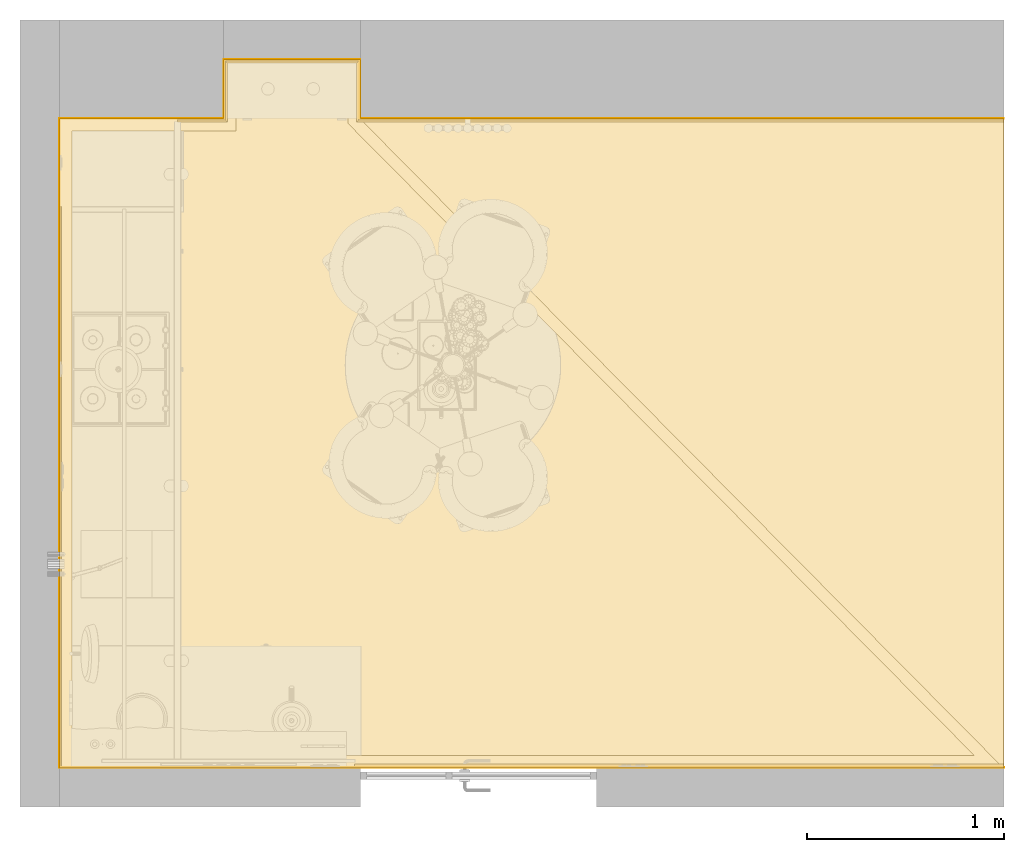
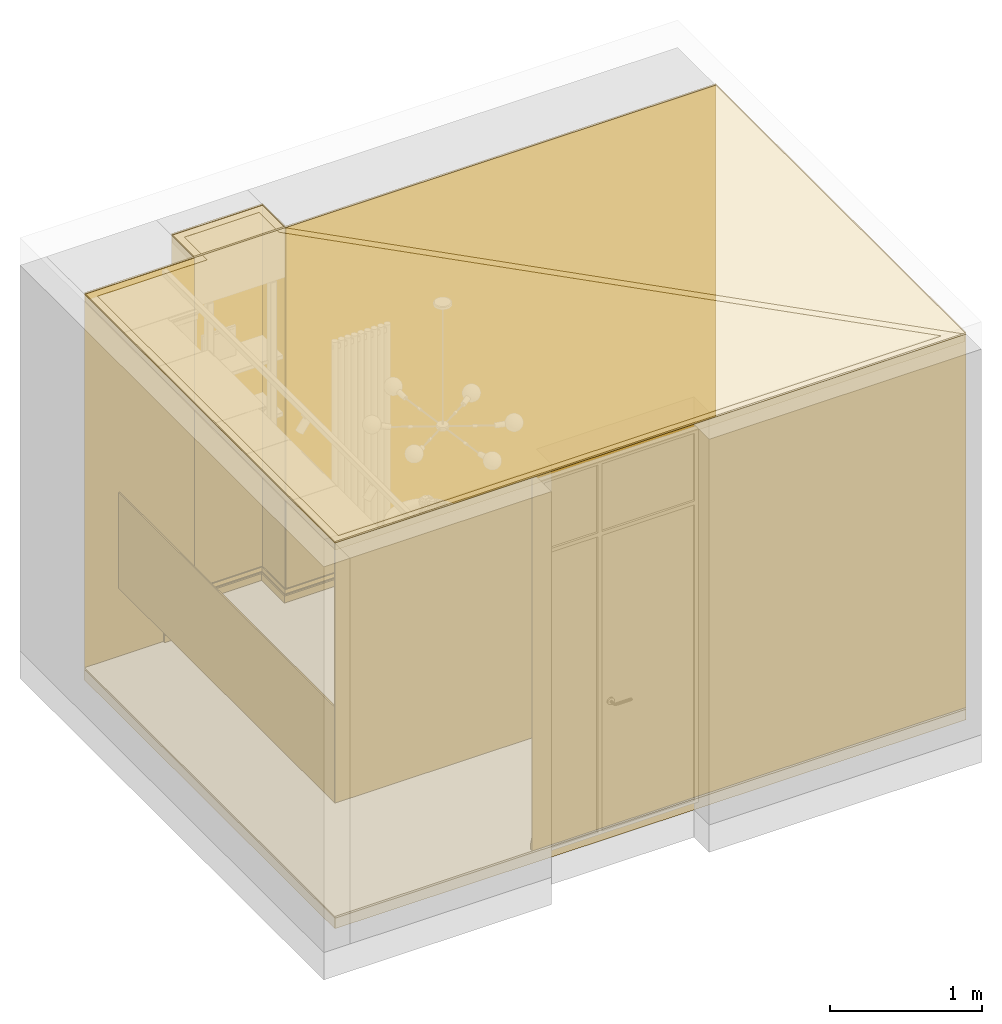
# One storey, part 2 of 11: 14 coverings.
"""IFC4 building model written with IfcOpenShell, lengths in millimetres."""

from ifc_helpers import new_model, si_unit, frame, origin_with_axes, place, context, subcontext, project, spatial, triangles, material, element, save


model = new_model("IFC4")

# Units and contexts
model_context = context("Model", 3, precision=0.01, world=origin_with_axes())
body_context = subcontext(model_context, "Body", "Model", "MODEL_VIEW")
ifc_project = project(units=[si_unit("LENGTHUNIT", "METRE", prefix="MILLI"), si_unit("AREAUNIT", "SQUARE_METRE"), si_unit("VOLUMEUNIT", "CUBIC_METRE"), si_unit("PLANEANGLEUNIT", "RADIAN")], contexts=[model_context])

# Site, building, storey
site_placement = place(None, origin_with_axes())
site = spatial("IfcSite", under=ifc_project, at=site_placement, Name="Участок", CompositionType="ELEMENT")
building_placement = place(site_placement, origin_with_axes())
building = spatial("IfcBuilding", under=site, at=building_placement, Name="Жилой дом", CompositionType="ELEMENT")
storey_placement = place(building_placement, origin_with_axes())
storey = spatial("IfcBuildingStorey", under=building, at=storey_placement, Name="Квартира ±0,000", CompositionType="ELEMENT", Elevation=0.0)

# Coverings
ifc_material_1 = material(Name="Сухая стяжка / основание пола")
covering_1_placement = place(storey_placement, frame((0.0, 0.0, -100.0)))
element("IfcCovering", 1, at=covering_1_placement, inside=storey, material=ifc_material_1, Name="Основание пола пом. 01", ObjectType="Стяжка / основание пола", PredefinedType="USERDEFINED", context=body_context, shape_type="Tessellation", body=[
    triangles([(4800.0, 0.0, 0.0), (4800.0, 3300.0, 0.0), (4800.0, 3300.0, 85.0), (4800.0, 0.0, 85.0), (4800.0, 3300.0, 0.0), (1530.0, 3300.0, 0.0), (1530.0, 3300.0, 85.0), (4800.0, 3300.0, 85.0), (1530.0, 3300.0, 0.0), (1530.0, 3600.0, 0.0), (1530.0, 3600.0, 85.0), (1530.0, 3300.0, 85.0), (1530.0, 3600.0, 0.0), (835.0, 3600.0, 0.0), (835.0, 3600.0, 85.0), (1530.0, 3600.0, 85.0), (835.0, 3600.0, 0.0), (835.0, 3300.0, 0.0), (835.0, 3300.0, 85.0), (835.0, 3600.0, 85.0), (835.0, 3300.0, 0.0), (0.0, 3300.0, 0.0), (0.0, 3300.0, 85.0), (835.0, 3300.0, 85.0), (0.0, 3300.0, 0.0), (0.0, 0.0, 0.0), (0.0, 0.0, 85.0), (0.0, 3300.0, 85.0), (0.0, 0.0, 0.0), (4800.0, 0.0, 0.0), (4800.0, 0.0, 85.0), (0.0, 0.0, 85.0), (0.0, 0.0, 85.0), (4800.0, 0.0, 85.0), (4800.0, 3300.0, 85.0), (0.0, 0.0, 85.0), (4800.0, 3300.0, 85.0), (1530.0, 3300.0, 85.0), (0.0, 0.0, 85.0), (1530.0, 3300.0, 85.0), (1530.0, 3600.0, 85.0), (1530.0, 3600.0, 85.0), (835.0, 3600.0, 85.0), (835.0, 3300.0, 85.0), (0.0, 0.0, 85.0), (1530.0, 3600.0, 85.0), (835.0, 3300.0, 85.0), (835.0, 3300.0, 85.0), (0.0, 3300.0, 85.0), (0.0, 0.0, 85.0), (4800.0, 3300.0, 0.0), (4800.0, 0.0, 0.0), (0.0, 0.0, 0.0), (1530.0, 3300.0, 0.0), (4800.0, 3300.0, 0.0), (0.0, 0.0, 0.0), (1530.0, 3600.0, 0.0), (1530.0, 3300.0, 0.0), (0.0, 0.0, 0.0), (835.0, 3300.0, 0.0), (835.0, 3600.0, 0.0), (1530.0, 3600.0, 0.0), (835.0, 3300.0, 0.0), (1530.0, 3600.0, 0.0), (0.0, 0.0, 0.0), (0.0, 0.0, 0.0), (0.0, 3300.0, 0.0), (835.0, 3300.0, 0.0)], [[1, 2, 3], [1, 3, 4], [5, 6, 7], [5, 7, 8], [9, 10, 11], [9, 11, 12], [13, 14, 15], [13, 15, 16], [17, 18, 19], [17, 19, 20], [21, 22, 23], [21, 23, 24], [25, 26, 27], [25, 27, 28], [29, 30, 31], [29, 31, 32], [33, 34, 35], [36, 37, 38], [39, 40, 41], [42, 43, 44], [45, 46, 47], [48, 49, 50], [51, 52, 53], [54, 55, 56], [57, 58, 59], [60, 61, 62], [63, 64, 65], [66, 67, 68]]),
])
ifc_material_2 = material(Name="П1 Инженерная доска дуб светлый 180×1800, вдоль оси кухни")
covering_2_placement = place(storey_placement, frame((0.0, 0.0, -15.0)))
element("IfcCovering", 2, at=covering_2_placement, inside=storey, material=ifc_material_2, Name="П1 — пол пом. 01", PredefinedType="FLOORING", context=body_context, shape_type="Tessellation", body=[
    triangles([(4800.0, 0.0, 0.0), (4800.0, 3300.0, 0.0), (4800.0, 3300.0, 15.0), (4800.0, 0.0, 15.0), (4800.0, 3300.0, 0.0), (1530.0, 3300.0, 0.0), (1530.0, 3300.0, 15.0), (4800.0, 3300.0, 15.0), (1530.0, 3300.0, 0.0), (1530.0, 3600.0, 0.0), (1530.0, 3600.0, 15.0), (1530.0, 3300.0, 15.0), (1530.0, 3600.0, 0.0), (835.0, 3600.0, 0.0), (835.0, 3600.0, 15.0), (1530.0, 3600.0, 15.0), (835.0, 3600.0, 0.0), (835.0, 3300.0, 0.0), (835.0, 3300.0, 15.0), (835.0, 3600.0, 15.0), (835.0, 3300.0, 0.0), (0.0, 3300.0, 0.0), (0.0, 3300.0, 15.0), (835.0, 3300.0, 15.0), (0.0, 3300.0, 0.0), (0.0, 0.0, 0.0), (0.0, 0.0, 15.0), (0.0, 3300.0, 15.0), (0.0, 0.0, 0.0), (4800.0, 0.0, 0.0), (4800.0, 0.0, 15.0), (0.0, 0.0, 15.0), (0.0, 0.0, 15.0), (4800.0, 0.0, 15.0), (4800.0, 3300.0, 15.0), (0.0, 0.0, 15.0), (4800.0, 3300.0, 15.0), (1530.0, 3300.0, 15.0), (0.0, 0.0, 15.0), (1530.0, 3300.0, 15.0), (1530.0, 3600.0, 15.0), (1530.0, 3600.0, 15.0), (835.0, 3600.0, 15.0), (835.0, 3300.0, 15.0), (0.0, 0.0, 15.0), (1530.0, 3600.0, 15.0), (835.0, 3300.0, 15.0), (835.0, 3300.0, 15.0), (0.0, 3300.0, 15.0), (0.0, 0.0, 15.0), (4800.0, 3300.0, 0.0), (4800.0, 0.0, 0.0), (0.0, 0.0, 0.0), (1530.0, 3300.0, 0.0), (4800.0, 3300.0, 0.0), (0.0, 0.0, 0.0), (1530.0, 3600.0, 0.0), (1530.0, 3300.0, 0.0), (0.0, 0.0, 0.0), (835.0, 3300.0, 0.0), (835.0, 3600.0, 0.0), (1530.0, 3600.0, 0.0), (835.0, 3300.0, 0.0), (1530.0, 3600.0, 0.0), (0.0, 0.0, 0.0), (0.0, 0.0, 0.0), (0.0, 3300.0, 0.0), (835.0, 3300.0, 0.0)], [[1, 2, 3], [1, 3, 4], [5, 6, 7], [5, 7, 8], [9, 10, 11], [9, 11, 12], [13, 14, 15], [13, 15, 16], [17, 18, 19], [17, 19, 20], [21, 22, 23], [21, 23, 24], [25, 26, 27], [25, 27, 28], [29, 30, 31], [29, 31, 32], [33, 34, 35], [36, 37, 38], [39, 40, 41], [42, 43, 44], [45, 46, 47], [48, 49, 50], [51, 52, 53], [54, 55, 56], [57, 58, 59], [60, 61, 62], [63, 64, 65], [66, 67, 68]]),
])
ifc_material_3 = material(Name="Потолок ГКЛ, окраска")
covering_3_placement = place(storey_placement, frame((0.0, 0.0, 3000.0)))
element("IfcCovering", 3, at=covering_3_placement, inside=storey, material=ifc_material_3, Name="Потолок пом. 01", PredefinedType="CEILING", context=body_context, shape_type="Tessellation", body=[
    triangles([(4800.0, 0.0, 0.0), (4800.0, 3300.0, 0.0), (4800.0, 3300.0, 12.5), (4800.0, 0.0, 12.5), (0.0, 3300.0, 0.0), (0.0, 0.0, 0.0), (0.0, 0.0, 12.5), (0.0, 3300.0, 12.5), (4800.0, 3300.0, 0.0), (0.0, 3300.0, 0.0), (0.0, 3300.0, 12.5), (4800.0, 3300.0, 12.5), (0.0, 0.0, 0.0), (4800.0, 0.0, 0.0), (4800.0, 0.0, 12.5), (0.0, 0.0, 12.5), (0.0, 3300.0, 0.0), (4800.0, 3300.0, 0.0), (4800.0, 0.0, 0.0), (0.0, 0.0, 0.0), (1530.0, 3300.0, 0.0), (1530.0, 3600.0, 0.0), (1530.0, 3600.0, 12.5), (1530.0, 3300.0, 12.5), (835.0, 3600.0, 0.0), (835.0, 3300.0, 0.0), (835.0, 3300.0, 12.5), (835.0, 3600.0, 12.5), (1530.0, 3600.0, 0.0), (835.0, 3600.0, 0.0), (835.0, 3600.0, 12.5), (1530.0, 3600.0, 12.5), (835.0, 3300.0, 0.0), (1530.0, 3300.0, 0.0), (1530.0, 3300.0, 12.5), (835.0, 3300.0, 12.5), (835.0, 3600.0, 0.0), (1530.0, 3600.0, 0.0), (1530.0, 3300.0, 0.0), (835.0, 3300.0, 0.0)], [[1, 2, 3], [1, 3, 4], [5, 6, 7], [5, 7, 8], [9, 10, 11], [9, 11, 12], [13, 14, 15], [13, 15, 16], [17, 18, 19], [17, 19, 20], [21, 22, 23], [21, 23, 24], [25, 26, 27], [25, 27, 28], [29, 30, 31], [29, 31, 32], [33, 34, 35], [33, 35, 36], [37, 38, 39], [37, 39, 40]]),
])
ifc_material_4 = material(Name="С1 Декоративная штукатурка")
covering_4_placement = place(storey_placement, frame((1500.0, 0.0, 0.0)))
element("IfcCovering", 4, at=covering_4_placement, inside=storey, material=ifc_material_4, Name="С1 — пом. 01, стена А", PredefinedType="CLADDING", context=body_context, shape_type="Tessellation", body=[
    triangles([(3300.0, 0.0, 0.0), (3300.0, 3.0, 0.0), (3300.0, 3.0, 3000.0), (3300.0, 0.0, 3000.0), (0.0, 3.0, 0.0), (0.0, 0.0, 0.0), (0.0, 0.0, 3000.0), (0.0, 3.0, 3000.0), (3300.0, 3.0, 0.0), (0.0, 3.0, 0.0), (0.0, 3.0, 3000.0), (3300.0, 3.0, 3000.0), (0.0, 0.0, 0.0), (3300.0, 0.0, 0.0), (3300.0, 0.0, 3000.0), (0.0, 0.0, 3000.0), (0.0, 0.0, 3000.0), (3300.0, 0.0, 3000.0), (3300.0, 3.0, 3000.0), (0.0, 3.0, 3000.0), (0.0, 3.0, 0.0), (3300.0, 3.0, 0.0), (3300.0, 0.0, 0.0), (0.0, 0.0, 0.0)], [[1, 2, 3], [1, 3, 4], [5, 6, 7], [5, 7, 8], [9, 10, 11], [9, 11, 12], [13, 14, 15], [13, 15, 16], [17, 18, 19], [17, 19, 20], [21, 22, 23], [21, 23, 24]]),
])
covering_5_placement = place(storey_placement, frame((0.0, 0.0, 910.0)))
element("IfcCovering", 5, at=covering_5_placement, inside=storey, material=ifc_material_4, Name="С1 — пом. 01, стена А", PredefinedType="CLADDING", context=body_context, shape_type="Tessellation", body=[
    triangles([(1500.0, 0.0, 0.0), (1500.0, 3.0, 0.0), (1500.0, 3.0, 2090.0), (1500.0, 0.0, 2090.0), (0.0, 3.0, 0.0), (0.0, 0.0, 0.0), (0.0, 0.0, 2090.0), (0.0, 3.0, 2090.0), (1500.0, 3.0, 0.0), (0.0, 3.0, 0.0), (0.0, 3.0, 2090.0), (1500.0, 3.0, 2090.0), (0.0, 0.0, 0.0), (1500.0, 0.0, 0.0), (1500.0, 0.0, 2090.0), (0.0, 0.0, 2090.0), (0.0, 0.0, 2090.0), (1500.0, 0.0, 2090.0), (1500.0, 3.0, 2090.0), (0.0, 3.0, 2090.0), (0.0, 3.0, 0.0), (1500.0, 3.0, 0.0), (1500.0, 0.0, 0.0), (0.0, 0.0, 0.0)], [[1, 2, 3], [1, 3, 4], [5, 6, 7], [5, 7, 8], [9, 10, 11], [9, 11, 12], [13, 14, 15], [13, 15, 16], [17, 18, 19], [17, 19, 20], [21, 22, 23], [21, 23, 24]]),
])
ifc_material_5 = material(Name="С2 Плитка фартука «звезда-крест» 250×250")
covering_6_placement = place(storey_placement, frame((0.0, 0.0, 910.0)))
element("IfcCovering", 6, at=covering_6_placement, inside=storey, material=ifc_material_5, Name="С2 — пом. 01, стена Б", PredefinedType="CLADDING", context=body_context, shape_type="Tessellation", body=[
    triangles([(10.0, 0.0, 0.0), (10.0, 2850.0, 0.0), (10.0, 2850.0, 770.0), (10.0, 0.0, 770.0), (0.0, 2850.0, 0.0), (0.0, 0.0, 0.0), (0.0, 0.0, 770.0), (0.0, 2850.0, 770.0), (10.0, 2850.0, 0.0), (0.0, 2850.0, 0.0), (0.0, 2850.0, 770.0), (10.0, 2850.0, 770.0), (0.0, 0.0, 0.0), (10.0, 0.0, 0.0), (10.0, 0.0, 770.0), (0.0, 0.0, 770.0), (0.0, 0.0, 770.0), (10.0, 0.0, 770.0), (10.0, 2850.0, 770.0), (0.0, 2850.0, 770.0), (0.0, 2850.0, 0.0), (10.0, 2850.0, 0.0), (10.0, 0.0, 0.0), (0.0, 0.0, 0.0)], [[1, 2, 3], [1, 3, 4], [5, 6, 7], [5, 7, 8], [9, 10, 11], [9, 11, 12], [13, 14, 15], [13, 15, 16], [17, 18, 19], [17, 19, 20], [21, 22, 23], [21, 23, 24]]),
])
covering_7_placement = place(storey_placement, frame((0.0, 0.0, 2950.0)))
element("IfcCovering", 7, at=covering_7_placement, inside=storey, material=ifc_material_4, Name="С1 — пом. 01, стена Б", PredefinedType="CLADDING", context=body_context, shape_type="Tessellation", body=[
    triangles([(3.0, 0.0, 0.0), (3.0, 3300.0, 0.0), (3.0, 3300.0, 50.0), (3.0, 0.0, 50.0), (0.0, 3300.0, 0.0), (0.0, 0.0, 0.0), (0.0, 0.0, 50.0), (0.0, 3300.0, 50.0), (3.0, 3300.0, 0.0), (0.0, 3300.0, 0.0), (0.0, 3300.0, 50.0), (3.0, 3300.0, 50.0), (0.0, 0.0, 0.0), (3.0, 0.0, 0.0), (3.0, 0.0, 50.0), (0.0, 0.0, 50.0), (0.0, 0.0, 50.0), (3.0, 0.0, 50.0), (3.0, 3300.0, 50.0), (0.0, 3300.0, 50.0), (0.0, 3300.0, 0.0), (3.0, 3300.0, 0.0), (3.0, 0.0, 0.0), (0.0, 0.0, 0.0)], [[1, 2, 3], [1, 3, 4], [5, 6, 7], [5, 7, 8], [9, 10, 11], [9, 11, 12], [13, 14, 15], [13, 15, 16], [17, 18, 19], [17, 19, 20], [21, 22, 23], [21, 23, 24]]),
])
covering_8_placement = place(storey_placement, frame((0.0, 3297.0, 0.0)))
element("IfcCovering", 8, at=covering_8_placement, inside=storey, material=ifc_material_4, Name="С1 — пом. 01, стена В", PredefinedType="CLADDING", context=body_context, shape_type="Tessellation", body=[
    triangles([(835.0, 0.0, 0.0), (835.0, 3.0, 0.0), (835.0, 3.0, 3000.0), (835.0, 0.0, 3000.0), (0.0, 3.0, 0.0), (0.0, 0.0, 0.0), (0.0, 0.0, 3000.0), (0.0, 3.0, 3000.0), (835.0, 3.0, 0.0), (0.0, 3.0, 0.0), (0.0, 3.0, 3000.0), (835.0, 3.0, 3000.0), (0.0, 0.0, 0.0), (835.0, 0.0, 0.0), (835.0, 0.0, 3000.0), (0.0, 0.0, 3000.0), (0.0, 0.0, 3000.0), (835.0, 0.0, 3000.0), (835.0, 3.0, 3000.0), (0.0, 3.0, 3000.0), (0.0, 3.0, 0.0), (835.0, 3.0, 0.0), (835.0, 0.0, 0.0), (0.0, 0.0, 0.0)], [[1, 2, 3], [1, 3, 4], [5, 6, 7], [5, 7, 8], [9, 10, 11], [9, 11, 12], [13, 14, 15], [13, 15, 16], [17, 18, 19], [17, 19, 20], [21, 22, 23], [21, 23, 24]]),
])
covering_9_placement = place(storey_placement, frame((835.0, 3300.0, 0.0)))
element("IfcCovering", 9, at=covering_9_placement, inside=storey, material=ifc_material_4, Name="С1 — пом. 01, стена Г", PredefinedType="CLADDING", context=body_context, shape_type="Tessellation", body=[
    triangles([(3.0, 0.0, 0.0), (3.0, 300.0, 0.0), (3.0, 300.0, 3000.0), (3.0, 0.0, 3000.0), (0.0, 300.0, 0.0), (0.0, 0.0, 0.0), (0.0, 0.0, 3000.0), (0.0, 300.0, 3000.0), (3.0, 300.0, 0.0), (0.0, 300.0, 0.0), (0.0, 300.0, 3000.0), (3.0, 300.0, 3000.0), (0.0, 0.0, 0.0), (3.0, 0.0, 0.0), (3.0, 0.0, 3000.0), (0.0, 0.0, 3000.0), (0.0, 0.0, 3000.0), (3.0, 0.0, 3000.0), (3.0, 300.0, 3000.0), (0.0, 300.0, 3000.0), (0.0, 300.0, 0.0), (3.0, 300.0, 0.0), (3.0, 0.0, 0.0), (0.0, 0.0, 0.0)], [[1, 2, 3], [1, 3, 4], [5, 6, 7], [5, 7, 8], [9, 10, 11], [9, 11, 12], [13, 14, 15], [13, 15, 16], [17, 18, 19], [17, 19, 20], [21, 22, 23], [21, 23, 24]]),
])
covering_10_placement = place(storey_placement, frame((835.0, 3597.0, 0.0)))
element("IfcCovering", 10, at=covering_10_placement, inside=storey, material=ifc_material_4, Name="С1 — пом. 01, стена Д", PredefinedType="CLADDING", context=body_context, shape_type="Tessellation", body=[
    triangles([(695.0, 0.0, 0.0), (695.0, 3.0, 0.0), (695.0, 3.0, 3000.0), (695.0, 0.0, 3000.0), (0.0, 3.0, 0.0), (0.0, 0.0, 0.0), (0.0, 0.0, 3000.0), (0.0, 3.0, 3000.0), (695.0, 3.0, 0.0), (0.0, 3.0, 0.0), (0.0, 3.0, 3000.0), (695.0, 3.0, 3000.0), (0.0, 0.0, 0.0), (695.0, 0.0, 0.0), (695.0, 0.0, 3000.0), (0.0, 0.0, 3000.0), (0.0, 0.0, 3000.0), (695.0, 0.0, 3000.0), (695.0, 3.0, 3000.0), (0.0, 3.0, 3000.0), (0.0, 3.0, 0.0), (695.0, 3.0, 0.0), (695.0, 0.0, 0.0), (0.0, 0.0, 0.0)], [[1, 2, 3], [1, 3, 4], [5, 6, 7], [5, 7, 8], [9, 10, 11], [9, 11, 12], [13, 14, 15], [13, 15, 16], [17, 18, 19], [17, 19, 20], [21, 22, 23], [21, 23, 24]]),
])
covering_11_placement = place(storey_placement, frame((1527.0, 3300.0, 0.0)))
element("IfcCovering", 11, at=covering_11_placement, inside=storey, material=ifc_material_4, Name="С1 — пом. 01, стена Е", PredefinedType="CLADDING", context=body_context, shape_type="Tessellation", body=[
    triangles([(3.0, 0.0, 0.0), (3.0, 300.0, 0.0), (3.0, 300.0, 3000.0), (3.0, 0.0, 3000.0), (0.0, 300.0, 0.0), (0.0, 0.0, 0.0), (0.0, 0.0, 3000.0), (0.0, 300.0, 3000.0), (3.0, 300.0, 0.0), (0.0, 300.0, 0.0), (0.0, 300.0, 3000.0), (3.0, 300.0, 3000.0), (0.0, 0.0, 0.0), (3.0, 0.0, 0.0), (3.0, 0.0, 3000.0), (0.0, 0.0, 3000.0), (0.0, 0.0, 3000.0), (3.0, 0.0, 3000.0), (3.0, 300.0, 3000.0), (0.0, 300.0, 3000.0), (0.0, 300.0, 0.0), (3.0, 300.0, 0.0), (3.0, 0.0, 0.0), (0.0, 0.0, 0.0)], [[1, 2, 3], [1, 3, 4], [5, 6, 7], [5, 7, 8], [9, 10, 11], [9, 11, 12], [13, 14, 15], [13, 15, 16], [17, 18, 19], [17, 19, 20], [21, 22, 23], [21, 23, 24]]),
])
covering_12_placement = place(storey_placement, frame((1530.0, 3297.0, 0.0)))
element("IfcCovering", 12, at=covering_12_placement, inside=storey, material=ifc_material_4, Name="С1 — пом. 01, стена Ж", PredefinedType="CLADDING", context=body_context, shape_type="Tessellation", body=[
    triangles([(3270.0, 0.0, 0.0), (3270.0, 3.0, 0.0), (3270.0, 3.0, 3000.0), (3270.0, 0.0, 3000.0), (0.0, 3.0, 0.0), (0.0, 0.0, 0.0), (0.0, 0.0, 3000.0), (0.0, 3.0, 3000.0), (3270.0, 3.0, 0.0), (0.0, 3.0, 0.0), (0.0, 3.0, 3000.0), (3270.0, 3.0, 3000.0), (0.0, 0.0, 0.0), (3270.0, 0.0, 0.0), (3270.0, 0.0, 3000.0), (0.0, 0.0, 3000.0), (0.0, 0.0, 3000.0), (3270.0, 0.0, 3000.0), (3270.0, 3.0, 3000.0), (0.0, 3.0, 3000.0), (0.0, 3.0, 0.0), (3270.0, 3.0, 0.0), (3270.0, 0.0, 0.0), (0.0, 0.0, 0.0)], [[1, 2, 3], [1, 3, 4], [5, 6, 7], [5, 7, 8], [9, 10, 11], [9, 11, 12], [13, 14, 15], [13, 15, 16], [17, 18, 19], [17, 19, 20], [21, 22, 23], [21, 23, 24]]),
])
covering_13_placement = place(storey_placement, frame((600.0, 3.0, 0.0)))
element("IfcCovering", 13, at=covering_13_placement, inside=storey, material=ifc_material_4, Name="Плинтус МДФ h=100 — пом. 01", PredefinedType="SKIRTINGBOARD", context=body_context, shape_type="Tessellation", body=[
    triangles([(4200.0, 0.0, 0.0), (900.0, 0.0, 0.0), (900.0, 16.0, 0.0), (4200.0, 16.0, 0.0), (4200.0, 16.0, 0.0), (900.0, 16.0, 0.0), (900.0, 16.0, 55.0), (4200.0, 16.0, 55.0), (4200.0, 16.0, 55.0), (900.0, 16.0, 55.0), (900.0, 13.0, 62.0), (4200.0, 13.0, 62.0), (4200.0, 13.0, 62.0), (900.0, 13.0, 62.0), (900.0, 13.0, 70.0), (4200.0, 13.0, 70.0), (4200.0, 13.0, 70.0), (900.0, 13.0, 70.0), (900.0, 9.0, 80.0), (4200.0, 9.0, 80.0), (4200.0, 9.0, 80.0), (900.0, 9.0, 80.0), (900.0, 6.0, 90.0), (4200.0, 6.0, 90.0), (4200.0, 6.0, 90.0), (900.0, 6.0, 90.0), (900.0, 4.0, 96.0), (4200.0, 4.0, 96.0), (4200.0, 4.0, 96.0), (900.0, 4.0, 96.0), (900.0, 6.0, 100.0), (4200.0, 6.0, 100.0), (4200.0, 6.0, 100.0), (900.0, 6.0, 100.0), (900.0, 0.0, 100.0), (4200.0, 0.0, 100.0), (4200.0, 0.0, 100.0), (900.0, 0.0, 100.0), (900.0, 0.0, 0.0), (4200.0, 0.0, 0.0), (4200.0, 7.5, 59.4), (4200.0, 0.0, 0.0), (4200.0, 16.0, 0.0), (4200.0, 7.5, 59.4), (4200.0, 16.0, 0.0), (4200.0, 16.0, 55.0), (4200.0, 7.5, 59.4), (4200.0, 16.0, 55.0), (4200.0, 13.0, 62.0), (4200.0, 7.5, 59.4), (4200.0, 13.0, 62.0), (4200.0, 13.0, 70.0), (4200.0, 7.5, 59.4), (4200.0, 13.0, 70.0), (4200.0, 9.0, 80.0), (4200.0, 7.5, 59.4), (4200.0, 9.0, 80.0), (4200.0, 6.0, 90.0), (4200.0, 7.5, 59.4), (4200.0, 6.0, 90.0), (4200.0, 4.0, 96.0), (4200.0, 7.5, 59.4), (4200.0, 4.0, 96.0), (4200.0, 6.0, 100.0), (4200.0, 7.5, 59.4), (4200.0, 6.0, 100.0), (4200.0, 0.0, 100.0), (4200.0, 7.5, 59.4), (4200.0, 0.0, 100.0), (4200.0, 0.0, 0.0), (4200.0, 7.5, 59.4), (4200.0, 0.0, 0.0), (4200.0, 0.0, 0.0), (900.0, 7.5, 59.4), (900.0, 0.0, 0.0), (900.0, 0.0, 100.0), (900.0, 7.5, 59.4), (900.0, 0.0, 100.0), (900.0, 6.0, 100.0), (900.0, 7.5, 59.4), (900.0, 6.0, 100.0), (900.0, 4.0, 96.0), (900.0, 7.5, 59.4), (900.0, 4.0, 96.0), (900.0, 6.0, 90.0), (900.0, 7.5, 59.4), (900.0, 6.0, 90.0), (900.0, 9.0, 80.0), (900.0, 7.5, 59.4), (900.0, 9.0, 80.0), (900.0, 13.0, 70.0), (900.0, 7.5, 59.4), (900.0, 13.0, 70.0), (900.0, 13.0, 62.0), (900.0, 7.5, 59.4), (900.0, 13.0, 62.0), (900.0, 16.0, 55.0), (900.0, 7.5, 59.4), (900.0, 16.0, 55.0), (900.0, 16.0, 0.0), (900.0, 7.5, 59.4), (900.0, 16.0, 0.0), (900.0, 0.0, 0.0), (900.0, 7.5, 59.4), (900.0, 0.0, 0.0), (900.0, 0.0, 0.0), (0.0, 3294.0, 0.0), (238.0, 3294.0, 0.0), (254.0, 3278.0, 0.0), (0.0, 3278.0, 0.0), (238.0, 3294.0, 0.0), (238.0, 3594.0, 0.0), (254.0, 3578.0, 0.0), (254.0, 3278.0, 0.0), (238.0, 3594.0, 0.0), (927.0, 3594.0, 0.0), (911.0, 3578.0, 0.0), (254.0, 3578.0, 0.0), (927.0, 3594.0, 0.0), (927.0, 3294.0, 0.0), (911.0, 3278.0, 0.0), (911.0, 3578.0, 0.0), (927.0, 3294.0, 0.0), (4200.0, 3294.0, 0.0), (4200.0, 3278.0, 0.0), (911.0, 3278.0, 0.0), (0.0, 3278.0, 0.0), (254.0, 3278.0, 0.0), (254.0, 3278.0, 55.0), (0.0, 3278.0, 55.0), (254.0, 3278.0, 0.0), (254.0, 3578.0, 0.0), (254.0, 3578.0, 55.0), (254.0, 3278.0, 55.0), (254.0, 3578.0, 0.0), (911.0, 3578.0, 0.0), (911.0, 3578.0, 55.0), (254.0, 3578.0, 55.0), (911.0, 3578.0, 0.0), (911.0, 3278.0, 0.0), (911.0, 3278.0, 55.0), (911.0, 3578.0, 55.0), (911.0, 3278.0, 0.0), (4200.0, 3278.0, 0.0), (4200.0, 3278.0, 55.0), (911.0, 3278.0, 55.0), (0.0, 3278.0, 55.0), (254.0, 3278.0, 55.0), (251.0, 3281.0, 62.0), (0.0, 3281.0, 62.0), (254.0, 3278.0, 55.0), (254.0, 3578.0, 55.0), (251.0, 3581.0, 62.0), (251.0, 3281.0, 62.0), (254.0, 3578.0, 55.0), (911.0, 3578.0, 55.0), (914.0, 3581.0, 62.0), (251.0, 3581.0, 62.0), (911.0, 3578.0, 55.0), (911.0, 3278.0, 55.0), (914.0, 3281.0, 62.0), (914.0, 3581.0, 62.0), (911.0, 3278.0, 55.0), (4200.0, 3278.0, 55.0), (4200.0, 3281.0, 62.0), (914.0, 3281.0, 62.0), (0.0, 3281.0, 62.0), (251.0, 3281.0, 62.0), (251.0, 3281.0, 70.0), (0.0, 3281.0, 70.0), (251.0, 3281.0, 62.0), (251.0, 3581.0, 62.0), (251.0, 3581.0, 70.0), (251.0, 3281.0, 70.0), (251.0, 3581.0, 62.0), (914.0, 3581.0, 62.0), (914.0, 3581.0, 70.0), (251.0, 3581.0, 70.0), (914.0, 3581.0, 62.0), (914.0, 3281.0, 62.0), (914.0, 3281.0, 70.0), (914.0, 3581.0, 70.0), (914.0, 3281.0, 62.0), (4200.0, 3281.0, 62.0), (4200.0, 3281.0, 70.0), (914.0, 3281.0, 70.0), (0.0, 3281.0, 70.0), (251.0, 3281.0, 70.0), (247.0, 3285.0, 80.0), (0.0, 3285.0, 80.0), (251.0, 3281.0, 70.0), (251.0, 3581.0, 70.0), (247.0, 3585.0, 80.0), (247.0, 3285.0, 80.0), (251.0, 3581.0, 70.0), (914.0, 3581.0, 70.0), (918.0, 3585.0, 80.0), (247.0, 3585.0, 80.0), (914.0, 3581.0, 70.0), (914.0, 3281.0, 70.0), (918.0, 3285.0, 80.0), (918.0, 3585.0, 80.0), (914.0, 3281.0, 70.0), (4200.0, 3281.0, 70.0), (4200.0, 3285.0, 80.0), (918.0, 3285.0, 80.0), (0.0, 3285.0, 80.0), (247.0, 3285.0, 80.0), (244.0, 3288.0, 90.0), (0.0, 3288.0, 90.0), (247.0, 3285.0, 80.0), (247.0, 3585.0, 80.0), (244.0, 3588.0, 90.0), (244.0, 3288.0, 90.0), (247.0, 3585.0, 80.0), (918.0, 3585.0, 80.0), (921.0, 3588.0, 90.0), (244.0, 3588.0, 90.0), (918.0, 3585.0, 80.0), (918.0, 3285.0, 80.0), (921.0, 3288.0, 90.0), (921.0, 3588.0, 90.0), (918.0, 3285.0, 80.0), (4200.0, 3285.0, 80.0), (4200.0, 3288.0, 90.0), (921.0, 3288.0, 90.0), (0.0, 3288.0, 90.0), (244.0, 3288.0, 90.0), (242.0, 3290.0, 96.0), (0.0, 3290.0, 96.0), (244.0, 3288.0, 90.0), (244.0, 3588.0, 90.0), (242.0, 3590.0, 96.0), (242.0, 3290.0, 96.0), (244.0, 3588.0, 90.0), (921.0, 3588.0, 90.0), (923.0, 3590.0, 96.0), (242.0, 3590.0, 96.0), (921.0, 3588.0, 90.0), (921.0, 3288.0, 90.0), (923.0, 3290.0, 96.0), (923.0, 3590.0, 96.0), (921.0, 3288.0, 90.0), (4200.0, 3288.0, 90.0), (4200.0, 3290.0, 96.0), (923.0, 3290.0, 96.0), (0.0, 3290.0, 96.0), (242.0, 3290.0, 96.0), (244.0, 3288.0, 100.0), (0.0, 3288.0, 100.0), (242.0, 3290.0, 96.0), (242.0, 3590.0, 96.0), (244.0, 3588.0, 100.0), (244.0, 3288.0, 100.0), (242.0, 3590.0, 96.0), (923.0, 3590.0, 96.0), (921.0, 3588.0, 100.0), (244.0, 3588.0, 100.0), (923.0, 3590.0, 96.0), (923.0, 3290.0, 96.0), (921.0, 3288.0, 100.0), (921.0, 3588.0, 100.0), (923.0, 3290.0, 96.0), (4200.0, 3290.0, 96.0), (4200.0, 3288.0, 100.0), (921.0, 3288.0, 100.0), (0.0, 3288.0, 100.0), (244.0, 3288.0, 100.0), (238.0, 3294.0, 100.0), (0.0, 3294.0, 100.0), (244.0, 3288.0, 100.0), (244.0, 3588.0, 100.0), (238.0, 3594.0, 100.0), (238.0, 3294.0, 100.0), (244.0, 3588.0, 100.0), (921.0, 3588.0, 100.0), (927.0, 3594.0, 100.0), (238.0, 3594.0, 100.0), (921.0, 3588.0, 100.0), (921.0, 3288.0, 100.0), (927.0, 3294.0, 100.0), (927.0, 3594.0, 100.0), (921.0, 3288.0, 100.0), (4200.0, 3288.0, 100.0), (4200.0, 3294.0, 100.0), (927.0, 3294.0, 100.0), (0.0, 3294.0, 100.0), (238.0, 3294.0, 100.0), (238.0, 3294.0, 0.0), (0.0, 3294.0, 0.0), (238.0, 3294.0, 100.0), (238.0, 3594.0, 100.0), (238.0, 3594.0, 0.0), (238.0, 3294.0, 0.0), (238.0, 3594.0, 100.0), (927.0, 3594.0, 100.0), (927.0, 3594.0, 0.0), (238.0, 3594.0, 0.0), (927.0, 3594.0, 100.0), (927.0, 3294.0, 100.0), (927.0, 3294.0, 0.0), (927.0, 3594.0, 0.0), (927.0, 3294.0, 100.0), (4200.0, 3294.0, 100.0), (4200.0, 3294.0, 0.0), (927.0, 3294.0, 0.0), (0.0, 3286.5, 59.4), (0.0, 3294.0, 0.0), (0.0, 3278.0, 0.0), (0.0, 3286.5, 59.4), (0.0, 3278.0, 0.0), (0.0, 3278.0, 55.0), (0.0, 3286.5, 59.4), (0.0, 3278.0, 55.0), (0.0, 3281.0, 62.0), (0.0, 3286.5, 59.4), (0.0, 3281.0, 62.0), (0.0, 3281.0, 70.0), (0.0, 3286.5, 59.4), (0.0, 3281.0, 70.0), (0.0, 3285.0, 80.0), (0.0, 3286.5, 59.4), (0.0, 3285.0, 80.0), (0.0, 3288.0, 90.0), (0.0, 3286.5, 59.4), (0.0, 3288.0, 90.0), (0.0, 3290.0, 96.0), (0.0, 3286.5, 59.4), (0.0, 3290.0, 96.0), (0.0, 3288.0, 100.0), (0.0, 3286.5, 59.4), (0.0, 3288.0, 100.0), (0.0, 3294.0, 100.0), (0.0, 3286.5, 59.4), (0.0, 3294.0, 100.0), (0.0, 3294.0, 0.0), (0.0, 3286.5, 59.4), (0.0, 3294.0, 0.0), (0.0, 3294.0, 0.0), (4200.0, 3286.5, 59.4), (4200.0, 3294.0, 0.0), (4200.0, 3294.0, 100.0), (4200.0, 3286.5, 59.4), (4200.0, 3294.0, 100.0), (4200.0, 3288.0, 100.0), (4200.0, 3286.5, 59.4), (4200.0, 3288.0, 100.0), (4200.0, 3290.0, 96.0), (4200.0, 3286.5, 59.4), (4200.0, 3290.0, 96.0), (4200.0, 3288.0, 90.0), (4200.0, 3286.5, 59.4), (4200.0, 3288.0, 90.0), (4200.0, 3285.0, 80.0), (4200.0, 3286.5, 59.4), (4200.0, 3285.0, 80.0), (4200.0, 3281.0, 70.0), (4200.0, 3286.5, 59.4), (4200.0, 3281.0, 70.0), (4200.0, 3281.0, 62.0), (4200.0, 3286.5, 59.4), (4200.0, 3281.0, 62.0), (4200.0, 3278.0, 55.0), (4200.0, 3286.5, 59.4), (4200.0, 3278.0, 55.0), (4200.0, 3278.0, 0.0), (4200.0, 3286.5, 59.4), (4200.0, 3278.0, 0.0), (4200.0, 3294.0, 0.0), (4200.0, 3286.5, 59.4), (4200.0, 3294.0, 0.0), (4200.0, 3294.0, 0.0)], [[1, 2, 3], [1, 3, 4], [5, 6, 7], [5, 7, 8], [9, 10, 11], [9, 11, 12], [13, 14, 15], [13, 15, 16], [17, 18, 19], [17, 19, 20], [21, 22, 23], [21, 23, 24], [25, 26, 27], [25, 27, 28], [29, 30, 31], [29, 31, 32], [33, 34, 35], [33, 35, 36], [37, 38, 39], [37, 39, 40], [41, 42, 43], [44, 45, 46], [47, 48, 49], [50, 51, 52], [53, 54, 55], [56, 57, 58], [59, 60, 61], [62, 63, 64], [65, 66, 67], [68, 69, 70], [71, 72, 73], [74, 75, 76], [77, 78, 79], [80, 81, 82], [83, 84, 85], [86, 87, 88], [89, 90, 91], [92, 93, 94], [95, 96, 97], [98, 99, 100], [101, 102, 103], [104, 105, 106], [107, 108, 109], [107, 109, 110], [111, 112, 113], [111, 113, 114], [115, 116, 117], [115, 117, 118], [119, 120, 121], [119, 121, 122], [123, 124, 125], [123, 125, 126], [127, 128, 129], [127, 129, 130], [131, 132, 133], [131, 133, 134], [135, 136, 137], [135, 137, 138], [139, 140, 141], [139, 141, 142], [143, 144, 145], [143, 145, 146], [147, 148, 149], [147, 149, 150], [151, 152, 153], [151, 153, 154], [155, 156, 157], [155, 157, 158], [159, 160, 161], [159, 161, 162], [163, 164, 165], [163, 165, 166], [167, 168, 169], [167, 169, 170], [171, 172, 173], [171, 173, 174], [175, 176, 177], [175, 177, 178], [179, 180, 181], [179, 181, 182], [183, 184, 185], [183, 185, 186], [187, 188, 189], [187, 189, 190], [191, 192, 193], [191, 193, 194], [195, 196, 197], [195, 197, 198], [199, 200, 201], [199, 201, 202], [203, 204, 205], [203, 205, 206], [207, 208, 209], [207, 209, 210], [211, 212, 213], [211, 213, 214], [215, 216, 217], [215, 217, 218], [219, 220, 221], [219, 221, 222], [223, 224, 225], [223, 225, 226], [227, 228, 229], [227, 229, 230], [231, 232, 233], [231, 233, 234], [235, 236, 237], [235, 237, 238], [239, 240, 241], [239, 241, 242], [243, 244, 245], [243, 245, 246], [247, 248, 249], [247, 249, 250], [251, 252, 253], [251, 253, 254], [255, 256, 257], [255, 257, 258], [259, 260, 261], [259, 261, 262], [263, 264, 265], [263, 265, 266], [267, 268, 269], [267, 269, 270], [271, 272, 273], [271, 273, 274], [275, 276, 277], [275, 277, 278], [279, 280, 281], [279, 281, 282], [283, 284, 285], [283, 285, 286], [287, 288, 289], [287, 289, 290], [291, 292, 293], [291, 293, 294], [295, 296, 297], [295, 297, 298], [299, 300, 301], [299, 301, 302], [303, 304, 305], [303, 305, 306], [307, 308, 309], [310, 311, 312], [313, 314, 315], [316, 317, 318], [319, 320, 321], [322, 323, 324], [325, 326, 327], [328, 329, 330], [331, 332, 333], [334, 335, 336], [337, 338, 339], [340, 341, 342], [343, 344, 345], [346, 347, 348], [349, 350, 351], [352, 353, 354], [355, 356, 357], [358, 359, 360], [361, 362, 363], [364, 365, 366], [367, 368, 369], [370, 371, 372]]),
])
covering_14_placement = place(storey_placement, frame((3.0, 3.0, 2940.0)))
element("IfcCovering", 14, at=covering_14_placement, inside=storey, material=ifc_material_3, Name="Галтель потолочная 60 — пом. 01", PredefinedType="MOLDING", context=body_context, shape_type="Tessellation", body=[
    triangles([(4789.8, 0.0, 60.0), (0.0, 0.0, 60.0), (0.0, 3294.0, 60.0), (835.0, 3294.0, 60.0), (835.0, 3594.0, 60.0), (1524.0, 3594.0, 60.0), (1524.0, 3295.8, 60.0), (4789.8, 0.0, 60.0), (4789.8, 0.0, 0.0), (0.0, 0.0, 0.0), (0.0, 3294.0, 0.0), (835.0, 3294.0, 0.0), (835.0, 3594.0, 0.0), (1524.0, 3594.0, 0.0), (1524.0, 3295.8, 0.0), (4789.8, 0.0, 0.0), (4777.9, 5.0, 11.9), (5.0, 5.0, 11.9), (5.0, 3289.0, 11.9), (840.0, 3289.0, 11.9), (840.0, 3589.0, 11.9), (1519.0, 3589.0, 11.9), (1519.0, 3293.7, 11.9), (4777.9, 5.0, 11.9), (4770.9, 7.9, 21.5), (7.9, 7.9, 21.5), (7.9, 3286.1, 21.5), (842.9, 3286.1, 21.5), (842.9, 3586.1, 21.5), (1516.1, 3586.1, 21.5), (1516.1, 3292.5, 21.5), (4770.9, 7.9, 21.5), (4759.6, 12.6, 30.3), (12.6, 12.6, 30.3), (12.6, 3281.4, 30.3), (847.6, 3281.4, 30.3), (847.6, 3581.4, 30.3), (1511.4, 3581.4, 30.3), (1511.4, 3290.6, 30.3), (4759.6, 12.6, 30.3), (4744.4, 18.9, 38.1), (18.9, 18.9, 38.1), (18.9, 3275.1, 38.1), (853.9, 3275.1, 38.1), (853.9, 3575.1, 38.1), (1505.1, 3575.1, 38.1), (1505.1, 3288.0, 38.1), (4744.4, 18.9, 38.1), (4725.8, 26.7, 44.4), (26.7, 26.7, 44.4), (26.7, 3267.3, 44.4), (861.7, 3267.3, 44.4), (861.7, 3567.3, 44.4), (1497.3, 3567.3, 44.4), (1497.3, 3284.8, 44.4), (4725.8, 26.7, 44.4), (4704.7, 35.5, 49.1), (35.5, 35.5, 49.1), (35.5, 3258.5, 49.1), (870.5, 3258.5, 49.1), (870.5, 3558.5, 49.1), (1488.5, 3558.5, 49.1), (1488.5, 3281.2, 49.1), (4704.7, 35.5, 49.1), (4681.7, 45.1, 52.0), (45.1, 45.1, 52.0), (45.1, 3248.9, 52.0), (880.1, 3248.9, 52.0), (880.1, 3548.9, 52.0), (1478.9, 3548.9, 52.0), (1478.9, 3277.2, 52.0), (4681.7, 45.1, 52.0), (4657.9, 55.0, 53.0), (55.0, 55.0, 53.0), (55.0, 3239.0, 53.0), (890.0, 3239.0, 53.0), (890.0, 3539.0, 53.0), (1469.0, 3539.0, 53.0), (1469.0, 3273.1, 53.0), (4657.9, 55.0, 53.0), (4645.9, 60.0, 54.0), (60.0, 60.0, 54.0), (60.0, 3234.0, 54.0), (895.0, 3234.0, 54.0), (895.0, 3534.0, 54.0), (1464.0, 3534.0, 54.0), (1464.0, 3271.1, 54.0), (4645.9, 60.0, 54.0), (4645.9, 60.0, 60.0), (60.0, 60.0, 60.0), (60.0, 3234.0, 60.0), (895.0, 3234.0, 60.0), (895.0, 3534.0, 60.0), (1464.0, 3534.0, 60.0), (1464.0, 3271.1, 60.0), (4645.9, 60.0, 60.0), (4789.8, 0.0, 60.0), (0.0, 0.0, 60.0), (0.0, 3294.0, 60.0), (835.0, 3294.0, 60.0), (835.0, 3594.0, 60.0), (1524.0, 3594.0, 60.0), (1524.0, 3295.8, 60.0), (4789.8, 0.0, 60.0)], [[1, 2, 10], [1, 10, 9], [2, 3, 11], [2, 11, 10], [3, 4, 12], [3, 12, 11], [4, 5, 13], [4, 13, 12], [5, 6, 14], [5, 14, 13], [6, 7, 15], [6, 15, 14], [7, 8, 16], [7, 16, 15], [9, 10, 18], [9, 18, 17], [10, 11, 19], [10, 19, 18], [11, 12, 20], [11, 20, 19], [12, 13, 21], [12, 21, 20], [13, 14, 22], [13, 22, 21], [14, 15, 23], [14, 23, 22], [15, 16, 24], [15, 24, 23], [17, 18, 26], [17, 26, 25], [18, 19, 27], [18, 27, 26], [19, 20, 28], [19, 28, 27], [20, 21, 29], [20, 29, 28], [21, 22, 30], [21, 30, 29], [22, 23, 31], [22, 31, 30], [23, 24, 32], [23, 32, 31], [25, 26, 34], [25, 34, 33], [26, 27, 35], [26, 35, 34], [27, 28, 36], [27, 36, 35], [28, 29, 37], [28, 37, 36], [29, 30, 38], [29, 38, 37], [30, 31, 39], [30, 39, 38], [31, 32, 40], [31, 40, 39], [33, 34, 42], [33, 42, 41], [34, 35, 43], [34, 43, 42], [35, 36, 44], [35, 44, 43], [36, 37, 45], [36, 45, 44], [37, 38, 46], [37, 46, 45], [38, 39, 47], [38, 47, 46], [39, 40, 48], [39, 48, 47], [41, 42, 50], [41, 50, 49], [42, 43, 51], [42, 51, 50], [43, 44, 52], [43, 52, 51], [44, 45, 53], [44, 53, 52], [45, 46, 54], [45, 54, 53], [46, 47, 55], [46, 55, 54], [47, 48, 56], [47, 56, 55], [49, 50, 58], [49, 58, 57], [50, 51, 59], [50, 59, 58], [51, 52, 60], [51, 60, 59], [52, 53, 61], [52, 61, 60], [53, 54, 62], [53, 62, 61], [54, 55, 63], [54, 63, 62], [55, 56, 64], [55, 64, 63], [57, 58, 66], [57, 66, 65], [58, 59, 67], [58, 67, 66], [59, 60, 68], [59, 68, 67], [60, 61, 69], [60, 69, 68], [61, 62, 70], [61, 70, 69], [62, 63, 71], [62, 71, 70], [63, 64, 72], [63, 72, 71], [65, 66, 74], [65, 74, 73], [66, 67, 75], [66, 75, 74], [67, 68, 76], [67, 76, 75], [68, 69, 77], [68, 77, 76], [69, 70, 78], [69, 78, 77], [70, 71, 79], [70, 79, 78], [71, 72, 80], [71, 80, 79], [73, 74, 82], [73, 82, 81], [74, 75, 83], [74, 83, 82], [75, 76, 84], [75, 84, 83], [76, 77, 85], [76, 85, 84], [77, 78, 86], [77, 86, 85], [78, 79, 87], [78, 87, 86], [79, 80, 88], [79, 88, 87], [81, 82, 90], [81, 90, 89], [82, 83, 91], [82, 91, 90], [83, 84, 92], [83, 92, 91], [84, 85, 93], [84, 93, 92], [85, 86, 94], [85, 94, 93], [86, 87, 95], [86, 95, 94], [87, 88, 96], [87, 96, 95], [89, 90, 98], [89, 98, 97], [90, 91, 99], [90, 99, 98], [91, 92, 100], [91, 100, 99], [92, 93, 101], [92, 101, 100], [93, 94, 102], [93, 102, 101], [94, 95, 103], [94, 103, 102], [95, 96, 104], [95, 104, 103]]),
])

save(model, "model.ifc")
